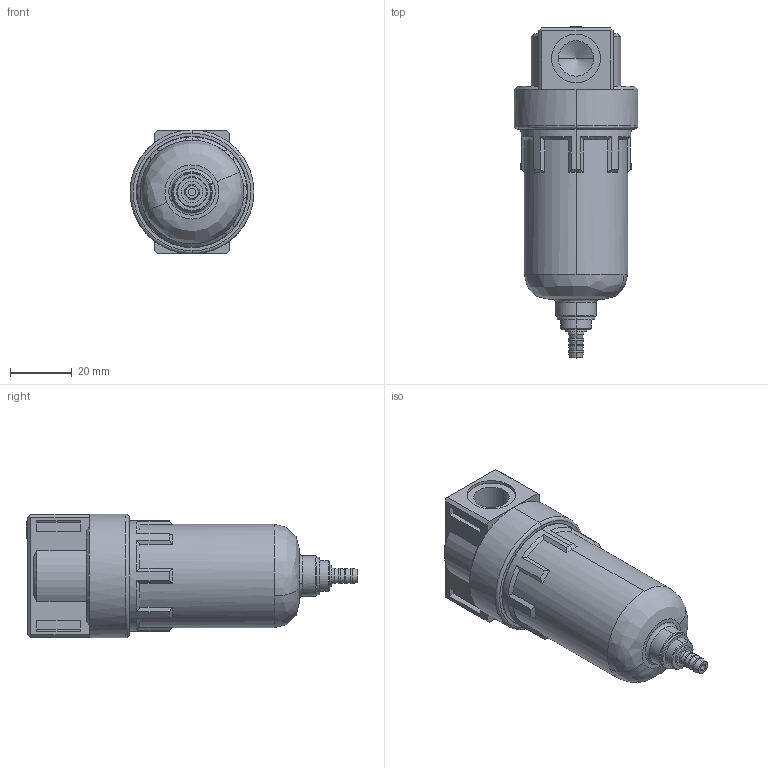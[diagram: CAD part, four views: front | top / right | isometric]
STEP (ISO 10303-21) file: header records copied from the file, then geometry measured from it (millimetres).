
FILE_DESCRIPTION (( 'STEP AP214' ), '1' );
FILE_NAME ('AF-2000.STEP', '2016-01-21T15:55:29', ( '' ), ( '' ), 'SwSTEP 2.0', 'SolidWorks 2016', '' );
FILE_SCHEMA (( 'AUTOMOTIVE_DESIGN' ));
Length unit declared in the file: millimetre
Products named in the file (3): 1; AF-2000; 2
Assembly tree (2 placements, depth 2):
  AF-2000
    1
    2
Bounding box: 40 x 107.3 x 40 mm (x, y, z)
Volume: 44272.4 mm3; surface area: 22961.7 mm2
Topology: 2 solids, 2 shells, 184 faces, 447 edges, 284 vertices
Faces by surface type: plane 79, cylinder 54, cone 43, bspline 8
Entity records: 6150 total; most frequent: CARTESIAN_POINT 1722, DIRECTION 927, ORIENTED_EDGE 886, EDGE_CURVE 443, AXIS2_PLACEMENT_3D 355, VERTEX_POINT 284, VECTOR 217, LINE 217
